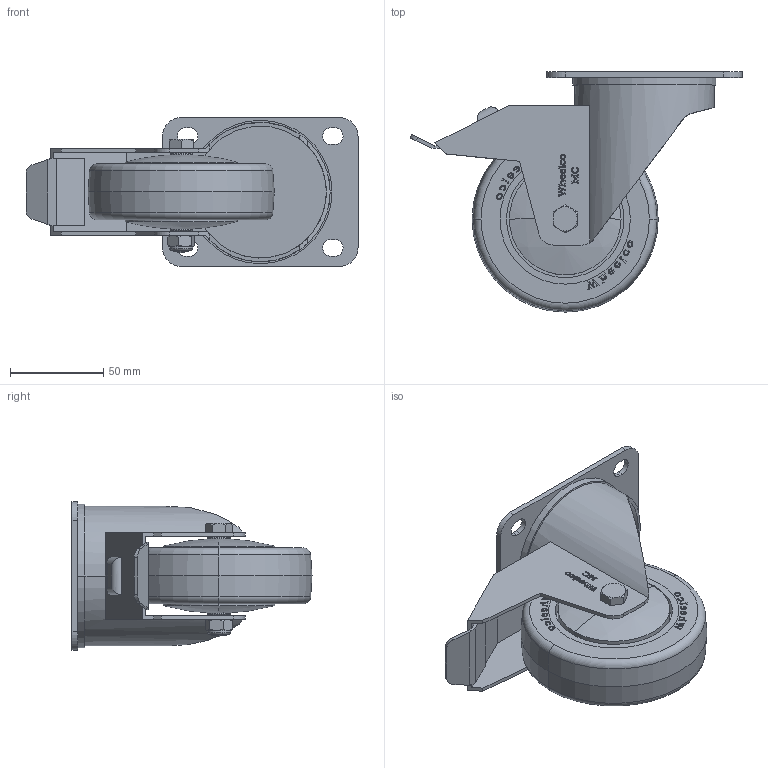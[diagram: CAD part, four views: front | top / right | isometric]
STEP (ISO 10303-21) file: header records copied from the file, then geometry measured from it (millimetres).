
FILE_DESCRIPTION (( 'STEP AP214' ), '1' );
FILE_NAME ('MCB100-P-TB.step', '2023-11-29T20:21:55', ( '' ), ( '' ), 'SwSTEP 2.0', 'SolidWorks 2022', '' );
FILE_SCHEMA (( 'AUTOMOTIVE_DESIGN' ));
Length unit declared in the file: millimetre
Products named in the file (7): MC100-P-TB; SP12-8-41; M8Nyloc; MCB100-P-TB; MC 105x80 Swivel Plate; M8x55; MCB100
Assembly tree (6 placements, depth 2):
  MCB100-P-TB
    MC100-P-TB
    MC 105x80 Swivel Plate
    SP12-8-41
    M8x55
    M8Nyloc
    MCB100
Bounding box: 178.37 x 129 x 80 mm (x, y, z)
Volume: 335494.5 mm3; surface area: 102682.7 mm2
Topology: 7 solids, 7 shells, 903 faces, 2449 edges, 1623 vertices
Faces by surface type: plane 476, bspline 266, cylinder 121, cone 24, torus 10, sphere 6
Entity records: 47893 total; most frequent: CARTESIAN_POINT 26615, ORIENTED_EDGE 4898, DIRECTION 3196, EDGE_CURVE 2449, VERTEX_POINT 1623, LINE 1582, VECTOR 1582, EDGE_LOOP 984
